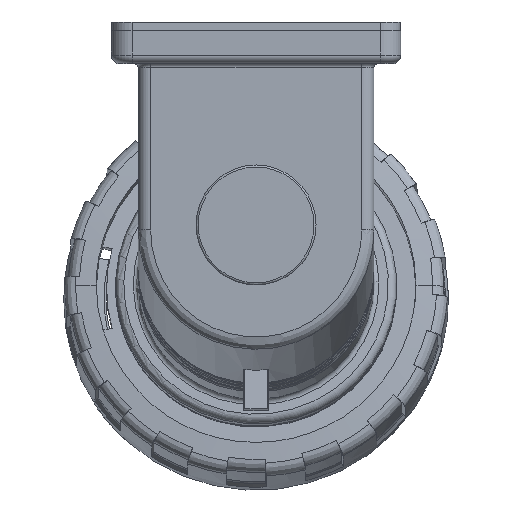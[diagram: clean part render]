
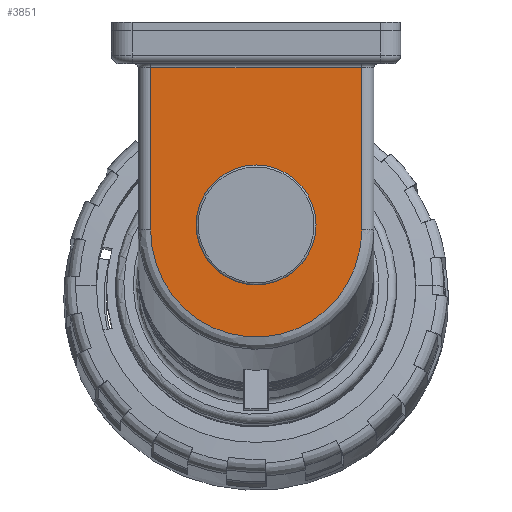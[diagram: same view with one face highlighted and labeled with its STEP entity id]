
A CAD part, top view. The second image highlights one B-rep face of the part: STEP entity #3851.
In plain terms, the highlighted planar face has unit normal (0, 0, 1).
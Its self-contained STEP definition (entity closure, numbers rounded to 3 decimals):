
#1296=ELLIPSE('',#30962,25.893,25.5);
#3851=ADVANCED_FACE('',(#8053,#8054),#5356,.F.);
#5356=PLANE('',#31488);
#7334=CIRCLE('',#31485,14.5);
#8053=FACE_BOUND('',#8809,.T.);
#8054=FACE_BOUND('',#8810,.T.);
#8809=EDGE_LOOP('',(#12636,#12637,#12638,#12639));
#8810=EDGE_LOOP('',(#12640));
#12636=ORIENTED_EDGE('',*,*,#22800,.T.);
#12637=ORIENTED_EDGE('',*,*,#22815,.F.);
#12638=ORIENTED_EDGE('',*,*,#22796,.F.);
#12639=ORIENTED_EDGE('',*,*,#22301,.T.);
#12640=ORIENTED_EDGE('',*,*,#23209,.T.);
#19414=VERTEX_POINT('',#42481);
#19416=VERTEX_POINT('',#42484);
#19746=VERTEX_POINT('',#44214);
#19748=VERTEX_POINT('',#44220);
#19992=VERTEX_POINT('',#45264);
#22301=EDGE_CURVE('',#19416,#19414,#1296,.T.);
#22796=EDGE_CURVE('',#19416,#19746,#26643,.T.);
#22800=EDGE_CURVE('',#19414,#19748,#26645,.T.);
#22815=EDGE_CURVE('',#19746,#19748,#26651,.T.);
#23209=EDGE_CURVE('',#19992,#19992,#7334,.T.);
#26643=LINE('',#44213,#28943);
#26645=LINE('',#44221,#28945);
#26651=LINE('',#44270,#28951);
#28943=VECTOR('',#34749,1.);
#28945=VECTOR('',#34757,1.);
#28951=VECTOR('',#34793,1.);
#30962=AXIS2_PLACEMENT_3D('',#42483,#33897,#33898);
#31485=AXIS2_PLACEMENT_3D('',#45263,#35587,#35588);
#31488=AXIS2_PLACEMENT_3D('',#45268,#35593,#35594);
#33897=DIRECTION('',(0.,0.,1.));
#33898=DIRECTION('',(0.,1.,0.));
#34749=DIRECTION('',(0.,1.,0.));
#34757=DIRECTION('',(0.,1.,0.));
#34793=DIRECTION('',(1.,0.,0.));
#35587=DIRECTION('',(0.,0.,-1.));
#35588=DIRECTION('',(1.,0.,0.));
#35593=DIRECTION('',(0.,0.,-1.));
#35594=DIRECTION('',(-1.,0.,0.));
#42481=CARTESIAN_POINT('',(25.5,-18.542,-74.301));
#42483=CARTESIAN_POINT('',(0.,-18.542,-74.301));
#42484=CARTESIAN_POINT('',(-25.5,-18.542,-74.301));
#44213=CARTESIAN_POINT('',(-25.5,-18.542,-74.301));
#44214=CARTESIAN_POINT('',(-25.5,20.728,-74.301));
#44220=CARTESIAN_POINT('',(25.5,20.728,-74.301));
#44221=CARTESIAN_POINT('',(25.5,-18.542,-74.301));
#44270=CARTESIAN_POINT('',(-25.5,20.728,-74.301));
#45263=CARTESIAN_POINT('',(0.,-17.324,-74.301));
#45264=CARTESIAN_POINT('',(14.5,-17.324,-74.301));
#45268=CARTESIAN_POINT('',(-36.,116.652,-74.301));
